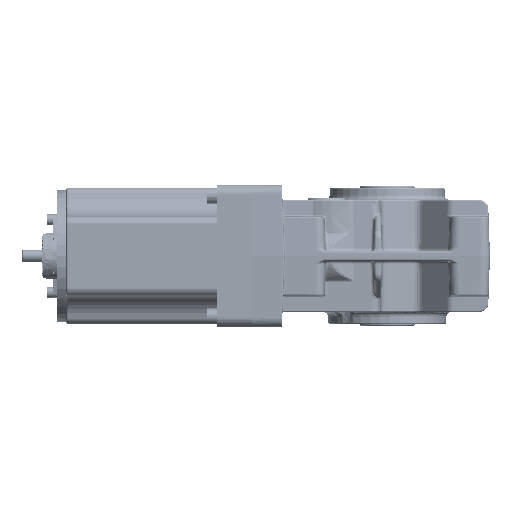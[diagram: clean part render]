
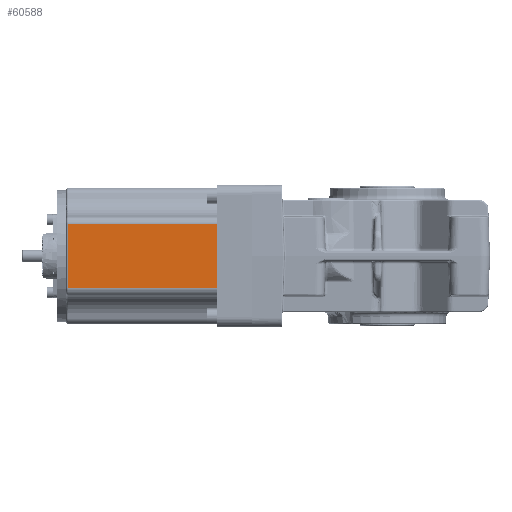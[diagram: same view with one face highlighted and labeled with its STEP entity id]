
A CAD part, front view. The second image highlights one B-rep face of the part: STEP entity #60588.
In plain terms, the highlighted planar face has unit normal (0, -1, 0).
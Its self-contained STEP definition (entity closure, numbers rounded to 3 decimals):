
#986 = VECTOR ( 'NONE', #127177, 1000. ) ;
#8792 = CARTESIAN_POINT ( 'NONE',  ( -186.719, -71.091, 80.402 ) ) ;
#27637 = EDGE_LOOP ( 'NONE', ( #200578, #362219, #28506, #84501 ) ) ;
#28506 = ORIENTED_EDGE ( 'NONE', *, *, #296814, .T. ) ;
#43610 = CARTESIAN_POINT ( 'NONE',  ( -174.219, -71.091, 80.402 ) ) ;
#60351 = VECTOR ( 'NONE', #189088, 1000. ) ;
#60588 = ADVANCED_FACE ( 'NONE', ( #286918 ), #189744, .F. ) ;
#68052 = VERTEX_POINT ( 'NONE', #272954 ) ;
#84501 = ORIENTED_EDGE ( 'NONE', *, *, #246018, .T. ) ;
#96333 = CARTESIAN_POINT ( 'NONE',  ( -280.719, -71.091, 57.44 ) ) ;
#99591 = LINE ( 'NONE', #321487, #986 ) ;
#100011 = VERTEX_POINT ( 'NONE', #291208 ) ;
#106009 = DIRECTION ( 'NONE',  ( 0., 0., -1. ) ) ;
#127177 = DIRECTION ( 'NONE',  ( -1., 0., 0. ) ) ;
#135519 = CARTESIAN_POINT ( 'NONE',  ( -186.719, -71.091, 17.364 ) ) ;
#140835 = DIRECTION ( 'NONE',  ( 0., 0., -1. ) ) ;
#189088 = DIRECTION ( 'NONE',  ( 1., 0., 0. ) ) ;
#189744 = PLANE ( 'NONE',  #369765 ) ;
#193255 = CARTESIAN_POINT ( 'NONE',  ( -174.219, -71.091, 17.364 ) ) ;
#200578 = ORIENTED_EDGE ( 'NONE', *, *, #406775, .F. ) ;
#216976 = VECTOR ( 'NONE', #106009, 1000. ) ;
#232770 = LINE ( 'NONE', #8792, #216976 ) ;
#246018 = EDGE_CURVE ( 'NONE', #68052, #375698, #260686, .T. ) ;
#251804 = VECTOR ( 'NONE', #319991, 1000. ) ;
#260686 = LINE ( 'NONE', #193255, #60351 ) ;
#267656 = DIRECTION ( 'NONE',  ( 0., 1., 0. ) ) ;
#272954 = CARTESIAN_POINT ( 'NONE',  ( -280.719, -71.091, 17.364 ) ) ;
#284187 = CARTESIAN_POINT ( 'NONE',  ( -280.719, -71.091, 17.364 ) ) ;
#286918 = FACE_OUTER_BOUND ( 'NONE', #27637, .T. ) ;
#291208 = CARTESIAN_POINT ( 'NONE',  ( -186.719, -71.091, 57.44 ) ) ;
#296814 = EDGE_CURVE ( 'NONE', #345075, #68052, #298182, .T. ) ;
#298182 = LINE ( 'NONE', #284187, #251804 ) ;
#319991 = DIRECTION ( 'NONE',  ( 0., 0., -1. ) ) ;
#321487 = CARTESIAN_POINT ( 'NONE',  ( -174.219, -71.091, 57.44 ) ) ;
#324349 = EDGE_CURVE ( 'NONE', #100011, #345075, #99591, .T. ) ;
#345075 = VERTEX_POINT ( 'NONE', #96333 ) ;
#362219 = ORIENTED_EDGE ( 'NONE', *, *, #324349, .T. ) ;
#369765 = AXIS2_PLACEMENT_3D ( 'NONE', #43610, #267656, #140835 ) ;
#375698 = VERTEX_POINT ( 'NONE', #135519 ) ;
#406775 = EDGE_CURVE ( 'NONE', #100011, #375698, #232770, .T. ) ;
